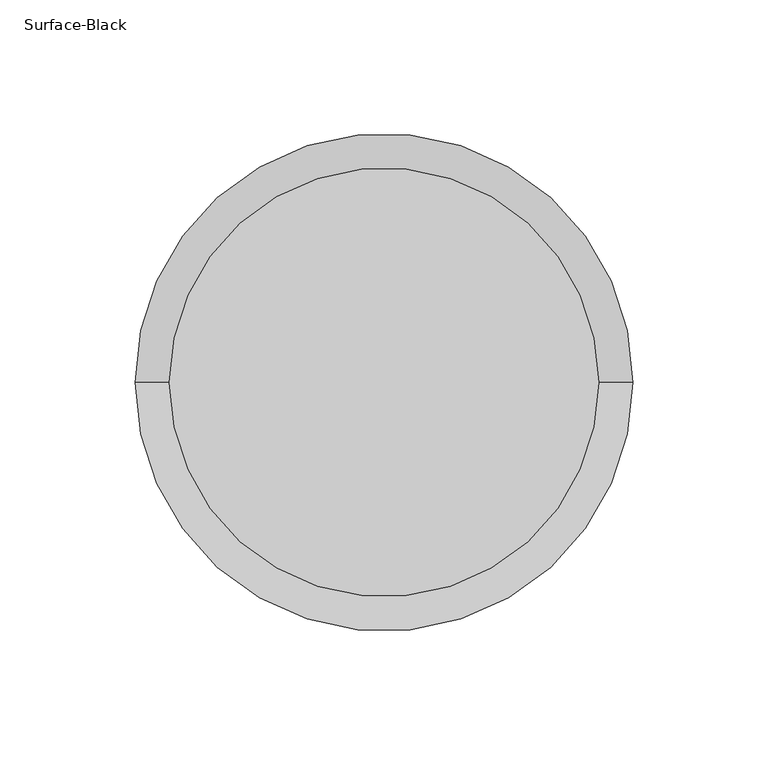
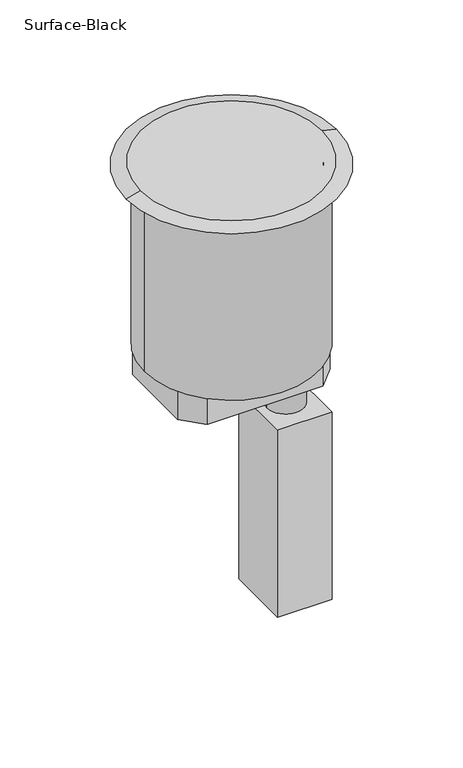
"""IFC4 building model written with IfcOpenShell, lengths in millimetres: proxy geometry, Poke_Thru-Evolution_6AT_Series-Wiremold-Prewired_Audio_Video : Surface-Black."""

from ifc_helpers import new_model, si_unit, point, frame, frame_2d, origin, origin_with_axes, place, context, project, spatial, polyline, circle_curve, trimmed, segment, composite_curve, outline, extrude, source, transform, mapped, element, save
from ifc_brep_helpers import plane_surface, cylinder_surface, revolved_surface, advanced_brep


def surface_black_213584b3(model_context):
    return source(origin(), model_context, "Body", "SolidModel", [
        extrude(outline(polyline([(-21.8163935, 61.9125), (22.0523137, 61.9125), (27.78125, 56.9197167), (27.78125, -56.9197167), (22.0523137, -61.9125), (-21.8163935, -61.9125), (-27.78125, -56.9197167), (-27.78125, 56.9197167), (-21.8163935, 61.9125)])), frame((0.0, 0.0, -6.35), z_axis=(0.0, 0.0, 1.0), x_axis=(1.0, 0.0, 0.0)), (0.0, 0.0, 1.0), 3.175),
        extrude(outline(composite_curve([segment(polyline([(56.4048196, -38.1), (27.8003, -38.1), (27.8003, 38.1), (56.4048196, 38.1)]), True, "CONTINUOUS"), segment(trimmed(circle_curve(frame_2d((7.1886716, 0.0)), 62.2401737), [point((56.4048196, 38.1))], [point((56.4048196, -38.1))], False, "CARTESIAN"), True, "CONTINUOUS")], self_intersect=False)), frame((0.0, 0.0, -6.35), z_axis=(0.0, 0.0, 1.0), x_axis=(1.0, 0.0, 0.0)), (0.0, 0.0, 1.0), 3.175),
        extrude(outline(composite_curve([segment(polyline([(-56.4048196, 38.1), (-27.8003, 38.1), (-27.8003, -38.1), (-56.4048196, -38.1)]), True, "CONTINUOUS"), segment(trimmed(circle_curve(frame_2d((-7.1886716, 0.0)), 62.2401737), [point((-56.4048196, -38.1))], [point((-56.4048196, 38.1))], False, "CARTESIAN"), True, "CONTINUOUS")], self_intersect=False)), frame((0.0, 0.0, -6.35), z_axis=(0.0, 0.0, 1.0), x_axis=(1.0, 0.0, 0.0)), (0.0, 0.0, 1.0), 3.175),
        advanced_brep(
        [(-79.375, 0.0, 3.175), (79.375, 0.0, 3.175), (-92.075, 0.0, 0.0), (92.075, 0.0, 0.0)],
        [
            (0, 1, circle_curve(frame((0.0, 0.0, 3.175), z_axis=(0.0, 0.0, 1.0), x_axis=(-1.0, 0.0, 0.0)), 79.375)),
            (1, 0, circle_curve(frame((0.0, 0.0, 3.175), z_axis=(0.0, 0.0, 1.0), x_axis=(1.0, 0.0, 0.0)), 79.375)),
            (2, 3, circle_curve(frame((0.0, 0.0, 0.0), z_axis=(0.0, 0.0, -1.0), x_axis=(1.0, 0.0, 0.0)), 92.075)),
            (3, 2, circle_curve(frame((0.0, 0.0, 0.0), z_axis=(0.0, 0.0, -1.0), x_axis=(-1.0, 0.0, 0.0)), 92.075)),
            (3, 1),
            (0, 2),
        ],
        [
            plane_surface(frame((0.0, 0.0, 3.175), z_axis=(0.0, 0.0, 1.0), x_axis=(0.0, -1.0, 0.0))),
            plane_surface(frame((0.0, 0.0, 0.0), z_axis=(0.0, 0.0, -1.0), x_axis=(0.0, -1.0, 0.0))),
            revolved_surface(polyline([(-79.375, 0.0, 3.1750000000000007), (-92.075, 0.0, 0.0)]), (0.0, 0.0, 23.01875), (0.0, 0.0, -1.0)),
            revolved_surface(polyline([(79.375, 0.0, 3.1750000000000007), (92.075, 0.0, 0.0)]), (0.0, 0.0, 23.01875), (0.0, 0.0, -1.0)),
        ],
        [
            (0, [[1, 2]]),
            (1, [[3, 4]]),
            (2, [[-4, 5, -1, 6]]),
            (3, [[-3, -6, -2, -5]]),
        ],
    ),
        advanced_brep(
        [(69.85, 0.0, -6.35), (-69.85, 0.0, -6.35), (-76.2, 0.0, -165.1), (76.2, 0.0, -165.1), (76.2, 0.0, -6.35), (-76.2, 0.0, -6.35), (-76.2, 0.0, 0.0), (76.2, 0.0, 0.0), (-69.85, 0.0, 0.0), (69.85, 0.0, 0.0)],
        [
            (0, 1, circle_curve(frame((0.0, 0.0, -6.35), z_axis=(0.0, 0.0, 1.0), x_axis=(1.0, 0.0, 0.0)), 69.85)),
            (1, 0, circle_curve(frame((0.0, 0.0, -6.35), z_axis=(0.0, 0.0, 1.0), x_axis=(1.0, 0.0, 0.0)), 69.85)),
            (2, 3, circle_curve(frame((0.0, 0.0, -165.1), z_axis=(0.0, 0.0, -1.0), x_axis=(1.0, 0.0, 0.0)), 76.2)),
            (3, 2, circle_curve(frame((0.0, 0.0, -165.1), z_axis=(0.0, 0.0, -1.0), x_axis=(1.0, 0.0, 0.0)), 76.2)),
            (3, 4),
            (4, 5, circle_curve(frame((0.0, 0.0, -6.35), z_axis=(0.0, 0.0, -1.0), x_axis=(1.0, 0.0, 0.0)), 76.2)),
            (5, 2),
            (5, 4, circle_curve(frame((0.0, 0.0, -6.35), z_axis=(0.0, 0.0, -1.0), x_axis=(1.0, 0.0, 0.0)), 76.2)),
            (6, 7, circle_curve(origin_with_axes(), 76.2)),
            (7, 6, circle_curve(origin_with_axes(), 76.2)),
            (8, 9, circle_curve(frame((0.0, 0.0, 0.0), z_axis=(0.0, 0.0, -1.0), x_axis=(1.0, 0.0, 0.0)), 69.85)),
            (9, 8, circle_curve(frame((0.0, 0.0, 0.0), z_axis=(0.0, 0.0, -1.0), x_axis=(1.0, 0.0, 0.0)), 69.85)),
            (6, 5),
            (4, 7),
            (8, 1),
            (0, 9),
        ],
        [
            plane_surface(frame((76.2, 0.0, -6.35), z_axis=(0.0, 0.0, 1.0), x_axis=(0.0, 1.0, 0.0))),
            plane_surface(frame((76.2, 0.0, -165.1), z_axis=(0.0, 0.0, -1.0), x_axis=(0.0, -1.0, 0.0))),
            cylinder_surface(frame((0.0, 0.0, -165.1), z_axis=(0.0, 0.0, 1.0), x_axis=(1.0, 0.0, 0.0)), 76.2),
            plane_surface(frame((76.2, 0.0, 0.0), z_axis=(0.0, 0.0, 1.0), x_axis=(0.0, 1.0, 0.0))),
            cylinder_surface(frame((0.0, 0.0, -6.35), z_axis=(0.0, 0.0, 1.0), x_axis=(1.0, 0.0, 0.0)), 76.2),
            revolved_surface(polyline([(69.85, 0.0, -6.35), (69.85, 0.0, 0.0)]), (0.0, 0.0, 0.0), (0.0, 0.0, -1.0)),
        ],
        [
            (0, [[1, 2]]),
            (1, [[3, 4]]),
            (2, [[-4, 5, 6, 7]]),
            (2, [[-3, -7, 8, -5]]),
            (3, [[9, 10], [11, 12]]),
            (4, [[-9, 13, -6, 14]]),
            (4, [[-10, -14, -8, -13]]),
            (5, [[-11, 15, -1, 16]]),
            (5, [[-12, -16, -2, -15]]),
        ],
    ),
        extrude(outline(polyline([(50.8, 50.8), (66.675, 34.036), (66.675, -34.036), (50.8, -50.8), (-50.8, -50.8), (-66.675, -34.036), (-66.675, 34.036), (-50.8, 50.8), (50.8, 50.8)])), frame((0.0, 0.0, -192.1002), z_axis=(0.0, 0.0, 1.0), x_axis=(1.0, 0.0, 0.0)), (0.0, 0.0, 1.0), 27.0002),
        extrude(outline(composite_curve([segment(trimmed(circle_curve(frame_2d((47.244, 0.0)), 11.1252), [point((36.1188, 0.0))], [point((58.3692, 0.0))], False, "CARTESIAN"), True, "CONTINUOUS"), segment(trimmed(circle_curve(frame_2d((47.244, 0.0)), 11.1252), [point((58.3692, 0.0))], [point((36.1188, 0.0))], False, "CARTESIAN"), True, "CONTINUOUS")], self_intersect=False)), frame((0.0, 0.0, -217.5002), z_axis=(0.0, 0.0, 1.0), x_axis=(1.0, 0.0, 0.0)), (0.0, 0.0, 1.0), 25.4),
        extrude(outline(composite_curve([segment(trimmed(circle_curve(frame_2d((47.244, 0.0)), 16.0528), [point((31.1912, 0.0))], [point((63.2968, 0.0))], False, "CARTESIAN"), True, "CONTINUOUS"), segment(trimmed(circle_curve(frame_2d((47.244, 0.0)), 16.0528), [point((63.2968, 0.0))], [point((31.1912, 0.0))], False, "CARTESIAN"), True, "CONTINUOUS")], self_intersect=False)), frame((0.0, 0.0, -236.5502), z_axis=(0.0, 0.0, 1.0), x_axis=(1.0, 0.0, 0.0)), (0.0, 0.0, 1.0), 19.05),
        extrude(outline(polyline([(71.0438, 28.980332), (71.0438, -29.439668), (23.4442, -29.439668), (23.4442, 28.980332), (71.0438, 28.980332)])), frame((0.0, 0.0, -409.575), z_axis=(0.0, 0.0, 1.0), x_axis=(1.0, 0.0, 0.0)), (0.0, 0.0, 1.0), 173.0248),
    ])


if __name__ == "__main__":
    model = new_model("IFC4")
    model_context = context("Model", 3, world=origin())
    ifc_project = project(units=[si_unit("LENGTHUNIT", "METRE", prefix="MILLI")], contexts=[model_context])
    site = spatial("IfcSite", under=ifc_project)
    building = spatial("IfcBuilding", under=site)
    placement = place(None, origin())
    surface_black_shape = surface_black_213584b3(model_context)
    element("IfcBuildingElementProxy", 1, Name="Poke_Thru-Evolution_6AT_Series-Wiremold-Prewired_Audio_Video : Surface-Black", ObjectType="Poke_Thru-Evolution_6AT_Series-Wiremold-Prewired_Audio_Video : Surface-Black", at=placement, inside=building, context=model_context, shape_type="MappedRepresentation", body=[
        mapped(surface_black_shape, transform((0.0, 0.0, 0.0), x_axis=(1.0, 0.0, 0.0), y_axis=(0.0, 1.0, 0.0), z_axis=(0.0, 0.0, 1.0))),
    ])
    save(model, "model.ifc")
